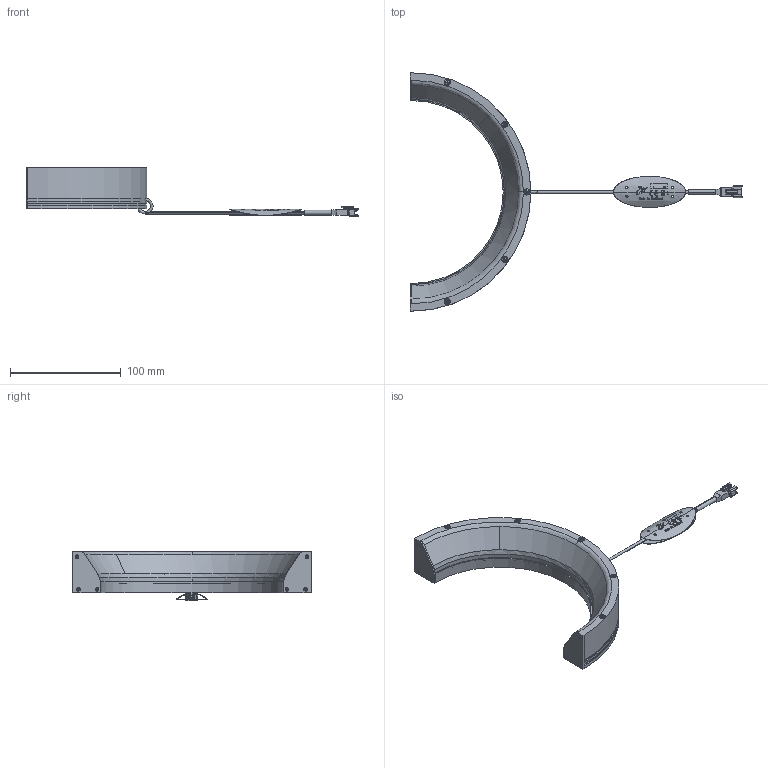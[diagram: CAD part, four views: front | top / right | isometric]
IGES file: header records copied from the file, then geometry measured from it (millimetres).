
Start section: 3D InterOp IGES (v. 2019 1.0.2), Spatial Corp. Copyright (c) 1999-2017.
Global section: file name: VMR-215165-HF_DRAWING_3D.iges; native system: Spatial Corp.; preprocessor: 3D InterOp ACIS/IGES; author: Noname; organization: Noname; date: 20260420.175059; units: millimetre
Bounding box: 299.44 x 215 x 44.25 mm (x, y, z)
Surface area: 74597.5 mm2 (no closed solid volume)
Topology: 0 solids, 0 shells, 710 faces, 4135 edges, 4090 vertices
Faces by surface type: extrusion 377, revolution 327, bspline 6
